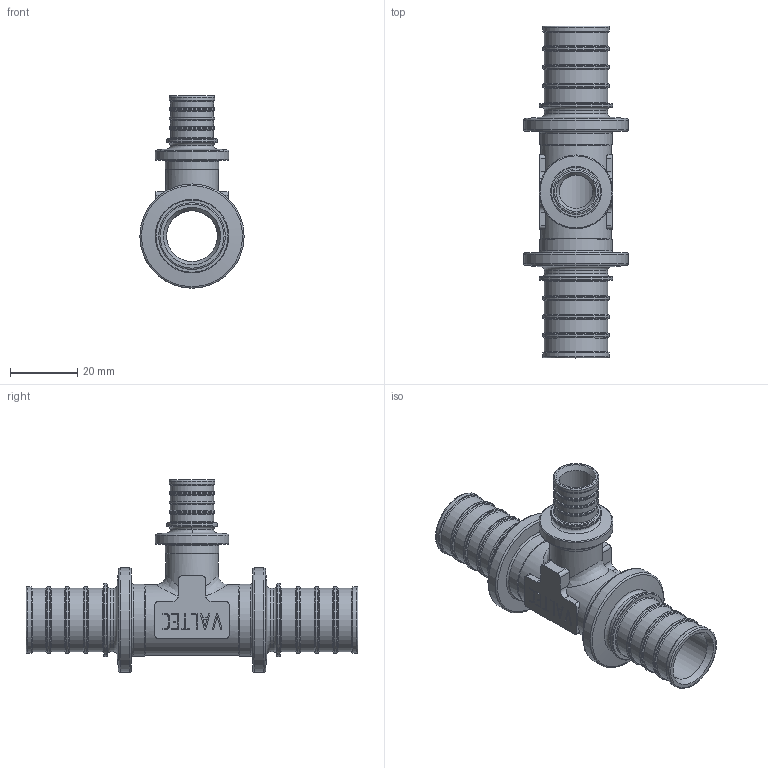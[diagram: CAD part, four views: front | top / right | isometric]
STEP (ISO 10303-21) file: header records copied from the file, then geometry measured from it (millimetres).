
FILE_DESCRIPTION(('STEP AP203'), '1');
FILE_NAME('覆.752241.016 - VTm.431.G.251625 秮鍣. 縺鳱', '', ('UNSPECIFIED'), ('UNSPECIFIED'), 'C3D Converter', 'C3D Toolkit', '');
FILE_SCHEMA(('CONFIG_CONTROL_DESIGN'));
Length unit declared in the file: millimetre
Products named in the file (1): ВР.752241.016
Bounding box: 30.9 x 98.4 x 57.05 mm (x, y, z)
Volume: 20555.7 mm3; surface area: 16525.9 mm2
Topology: 1 solids, 1 shells, 402 faces, 1041 edges, 667 vertices
Faces by surface type: extrusion 142, plane 126, torus 68, cylinder 55, cone 9, bspline 2
Full cylindrical faces by diameter (mm): 10 x1, 12.8 x4, 13.5 x4, 15 x2, 15.5 x1, 15.8 x1, 18.8 x10, 19.8 x8, 21 x1, 21.4 x2, 21.8 x2, 21.9 x1, 30.9 x2
Entity records: 16141 total; most frequent: CARTESIAN_POINT 4030, ORIENTED_EDGE 1850, DIRECTION 1442, EDGE_CURVE 925, VERTEX_POINT 663, VECTOR 582, EDGE_LOOP 544, B_SPLINE_CURVE_WITH_KNOTS 456
